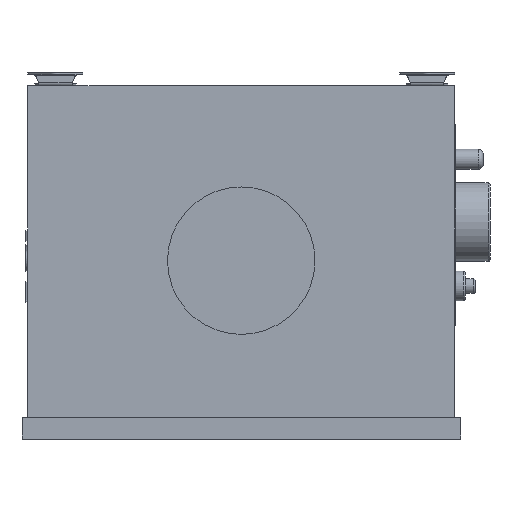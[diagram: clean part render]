
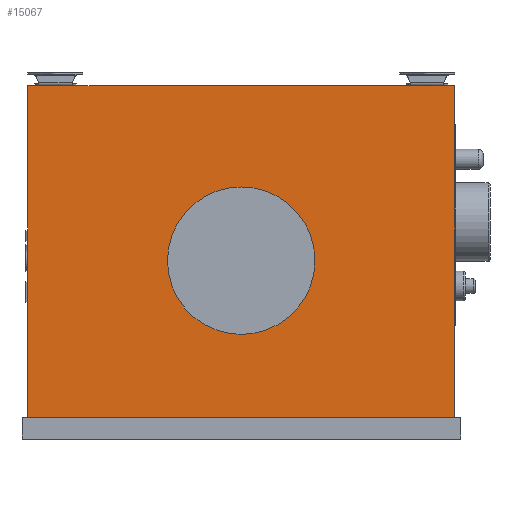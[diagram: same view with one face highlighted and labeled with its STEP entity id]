
A CAD part, front view. The second image highlights one B-rep face of the part: STEP entity #15067.
In plain terms, the highlighted planar face has unit normal (0, -1, 0).
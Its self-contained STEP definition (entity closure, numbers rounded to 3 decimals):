
#174=CIRCLE('',#15658,75.);
#319=FACE_BOUND('',#2337,.T.);
#1485=FACE_OUTER_BOUND('',#2336,.T.);
#2336=EDGE_LOOP('',(#13656,#13657,#13658,#13659));
#2337=EDGE_LOOP('',(#13660));
#3362=LINE('',#26643,#4652);
#3625=LINE('',#31423,#4915);
#3626=LINE('',#31425,#4916);
#3627=LINE('',#31426,#4917);
#4652=VECTOR('',#17194,10.);
#4915=VECTOR('',#18105,10.);
#4916=VECTOR('',#18108,10.);
#4917=VECTOR('',#18109,10.);
#6826=VERTEX_POINT('',#26639);
#6828=VERTEX_POINT('',#26642);
#7116=VERTEX_POINT('',#31394);
#7124=VERTEX_POINT('',#31419);
#7125=VERTEX_POINT('',#31421);
#8860=EDGE_CURVE('',#6828,#6826,#3362,.T.);
#9303=EDGE_CURVE('',#7116,#7116,#174,.T.);
#9316=EDGE_CURVE('',#7124,#7125,#3625,.T.);
#9317=EDGE_CURVE('',#7124,#6826,#3626,.T.);
#9318=EDGE_CURVE('',#6828,#7125,#3627,.T.);
#13656=ORIENTED_EDGE('',*,*,#9317,.F.);
#13657=ORIENTED_EDGE('',*,*,#9316,.T.);
#13658=ORIENTED_EDGE('',*,*,#9318,.F.);
#13659=ORIENTED_EDGE('',*,*,#8860,.T.);
#13660=ORIENTED_EDGE('',*,*,#9303,.T.);
#14051=PLANE('',#15670);
#15067=ADVANCED_FACE('',(#1485,#319),#14051,.T.);
#15658=AXIS2_PLACEMENT_3D('',#31395,#18074,#18075);
#15670=AXIS2_PLACEMENT_3D('',#31424,#18106,#18107);
#17194=DIRECTION('',(0.,0.,-1.));
#18074=DIRECTION('center_axis',(0.,1.,0.));
#18075=DIRECTION('ref_axis',(1.,0.,0.));
#18105=DIRECTION('',(0.,0.,1.));
#18106=DIRECTION('center_axis',(0.,-1.,0.));
#18107=DIRECTION('ref_axis',(1.,0.,0.));
#18108=DIRECTION('',(-1.,0.,0.));
#18109=DIRECTION('',(1.,0.,0.));
#26639=CARTESIAN_POINT('',(-305.802,-31.496,-157.75));
#26642=CARTESIAN_POINT('',(-305.802,-31.496,179.75));
#26643=CARTESIAN_POINT('',(-305.802,-31.496,-157.75));
#31394=CARTESIAN_POINT('',(-163.802,-31.496,1.75));
#31395=CARTESIAN_POINT('Origin',(-88.802,-31.496,1.75));
#31419=CARTESIAN_POINT('',(128.198,-31.496,-157.75));
#31421=CARTESIAN_POINT('',(128.198,-31.496,179.75));
#31423=CARTESIAN_POINT('',(128.198,-31.496,-157.75));
#31424=CARTESIAN_POINT('Origin',(-305.802,-31.496,-157.75));
#31425=CARTESIAN_POINT('',(128.198,-31.496,-157.75));
#31426=CARTESIAN_POINT('',(-305.802,-31.496,179.75));
